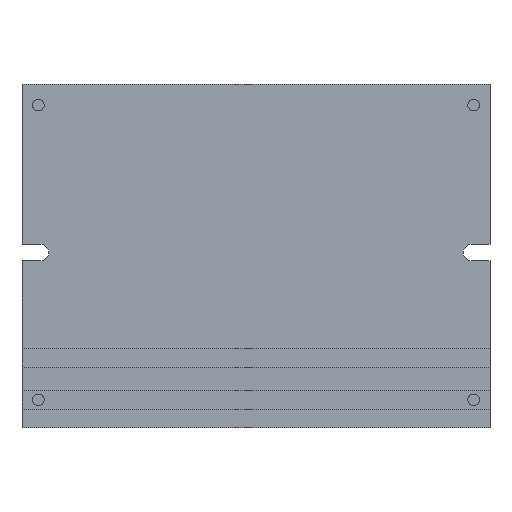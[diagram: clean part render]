
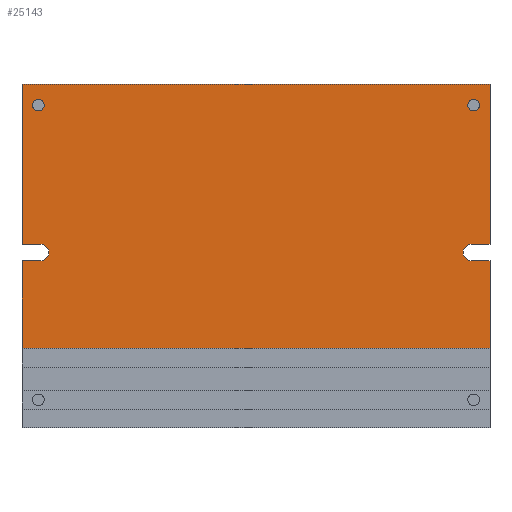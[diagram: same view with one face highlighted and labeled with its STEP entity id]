
A CAD part, front view. The second image highlights one B-rep face of the part: STEP entity #25143.
In plain terms, the highlighted planar face has unit normal (0, -1, 0).
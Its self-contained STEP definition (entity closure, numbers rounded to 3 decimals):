
#20 = ORIENTED_EDGE ( 'NONE', *, *, #6313, .T. ) ;
#113 = CARTESIAN_POINT ( 'NONE',  ( 50., 0., -17. ) ) ;
#625 = CARTESIAN_POINT ( 'NONE',  ( -50., 0., -17. ) ) ;
#988 = CIRCLE ( 'NONE', #11202, 1.25 ) ;
#1058 = EDGE_CURVE ( 'NONE', #17542, #24134, #6709, .T. ) ;
#1506 = EDGE_CURVE ( 'NONE', #13474, #17542, #23056, .T. ) ;
#1913 = CARTESIAN_POINT ( 'NONE',  ( 50., 0., -39.25 ) ) ;
#1966 = EDGE_CURVE ( 'NONE', #23691, #13474, #33916, .T. ) ;
#2396 = CARTESIAN_POINT ( 'NONE',  ( -46., 0., -37.5 ) ) ;
#2475 = ORIENTED_EDGE ( 'NONE', *, *, #37391, .T. ) ;
#2651 = ORIENTED_EDGE ( 'NONE', *, *, #33329, .T. ) ;
#2688 = VERTEX_POINT ( 'NONE', #36708 ) ;
#2946 = DIRECTION ( 'NONE',  ( -1., 0., 0. ) ) ;
#3272 = VECTOR ( 'NONE', #33790, 1000. ) ;
#3478 = VERTEX_POINT ( 'NONE', #21439 ) ;
#3665 = EDGE_CURVE ( 'NONE', #19752, #33095, #28564, .T. ) ;
#4010 = ORIENTED_EDGE ( 'NONE', *, *, #33170, .F. ) ;
#4163 = DIRECTION ( 'NONE',  ( 0., 0., -1. ) ) ;
#4278 = LINE ( 'NONE', #113, #19685 ) ;
#5313 = DIRECTION ( 'NONE',  ( 0., 0., 1. ) ) ;
#5749 = EDGE_CURVE ( 'NONE', #24048, #15819, #9074, .T. ) ;
#6313 = EDGE_CURVE ( 'NONE', #11904, #23691, #34809, .T. ) ;
#6709 = LINE ( 'NONE', #28142, #14375 ) ;
#6734 = VERTEX_POINT ( 'NONE', #37367 ) ;
#7167 = VECTOR ( 'NONE', #27182, 1000. ) ;
#7235 = AXIS2_PLACEMENT_3D ( 'NONE', #13713, #33973, #16642 ) ;
#7365 = EDGE_CURVE ( 'NONE', #24134, #11085, #20096, .T. ) ;
#7835 = CARTESIAN_POINT ( 'NONE',  ( -46., 0., -35.75 ) ) ;
#9074 = CIRCLE ( 'NONE', #12540, 1.25 ) ;
#9455 = CARTESIAN_POINT ( 'NONE',  ( 50., 0., -73.5 ) ) ;
#9632 = VECTOR ( 'NONE', #20652, 1000. ) ;
#10276 = EDGE_CURVE ( 'NONE', #19752, #32435, #25444, .T. ) ;
#10365 = DIRECTION ( 'NONE',  ( 0., 1., 0. ) ) ;
#10871 = FACE_OUTER_BOUND ( 'NONE', #11780, .T. ) ;
#10947 = CARTESIAN_POINT ( 'NONE',  ( 50., 0., -17. ) ) ;
#11008 = CARTESIAN_POINT ( 'NONE',  ( 46.5, 0., -69. ) ) ;
#11085 = VERTEX_POINT ( 'NONE', #26541 ) ;
#11202 = AXIS2_PLACEMENT_3D ( 'NONE', #28996, #11661, #31871 ) ;
#11359 = DIRECTION ( 'NONE',  ( 1., 0., 0. ) ) ;
#11661 = DIRECTION ( 'NONE',  ( 0., 1., 0. ) ) ;
#11780 = EDGE_LOOP ( 'NONE', ( #2475, #22303, #13648, #14299, #20, #29548, #24611, #15769, #30627, #4010, #16024, #31190 ) ) ;
#11904 = VERTEX_POINT ( 'NONE', #625 ) ;
#12398 = VECTOR ( 'NONE', #32895, 1000. ) ;
#12540 = AXIS2_PLACEMENT_3D ( 'NONE', #11008, #31228, #13867 ) ;
#12925 = CARTESIAN_POINT ( 'NONE',  ( -50., 0., -17. ) ) ;
#13448 = AXIS2_PLACEMENT_3D ( 'NONE', #31488, #14148, #34405 ) ;
#13457 = EDGE_LOOP ( 'NONE', ( #22156, #17883 ) ) ;
#13474 = VERTEX_POINT ( 'NONE', #7835 ) ;
#13526 = VECTOR ( 'NONE', #4163, 1000. ) ;
#13569 = EDGE_CURVE ( 'NONE', #20854, #19273, #988, .T. ) ;
#13648 = ORIENTED_EDGE ( 'NONE', *, *, #13950, .F. ) ;
#13713 = CARTESIAN_POINT ( 'NONE',  ( -46.5, 0., -69. ) ) ;
#13829 = DIRECTION ( 'NONE',  ( 0., 1., 0. ) ) ;
#13867 = DIRECTION ( 'NONE',  ( 0., 0., 1. ) ) ;
#13950 = EDGE_CURVE ( 'NONE', #2688, #3478, #18254, .T. ) ;
#14148 = DIRECTION ( 'NONE',  ( 0., 1., 0. ) ) ;
#14164 = AXIS2_PLACEMENT_3D ( 'NONE', #27696, #10365, #30569 ) ;
#14299 = ORIENTED_EDGE ( 'NONE', *, *, #27285, .T. ) ;
#14375 = VECTOR ( 'NONE', #31150, 1000. ) ;
#14662 = AXIS2_PLACEMENT_3D ( 'NONE', #31196, #13829, #34097 ) ;
#14845 = LINE ( 'NONE', #21465, #7167 ) ;
#15769 = ORIENTED_EDGE ( 'NONE', *, *, #1058, .T. ) ;
#15819 = VERTEX_POINT ( 'NONE', #34488 ) ;
#16024 = ORIENTED_EDGE ( 'NONE', *, *, #3665, .F. ) ;
#16642 = DIRECTION ( 'NONE',  ( 0., 0., 1. ) ) ;
#17043 = CIRCLE ( 'NONE', #13448, 1.75 ) ;
#17542 = VERTEX_POINT ( 'NONE', #23542 ) ;
#17883 = ORIENTED_EDGE ( 'NONE', *, *, #19376, .T. ) ;
#18254 = LINE ( 'NONE', #23556, #9632 ) ;
#18282 = DIRECTION ( 'NONE',  ( 1., 0., 0. ) ) ;
#18562 = FACE_BOUND ( 'NONE', #26707, .T. ) ;
#18698 = CARTESIAN_POINT ( 'NONE',  ( -46.5, 0., -67.75 ) ) ;
#19273 = VERTEX_POINT ( 'NONE', #18698 ) ;
#19376 = EDGE_CURVE ( 'NONE', #15819, #24048, #22151, .T. ) ;
#19616 = VECTOR ( 'NONE', #18282, 1000. ) ;
#19685 = VECTOR ( 'NONE', #2946, 1000. ) ;
#19752 = VERTEX_POINT ( 'NONE', #1913 ) ;
#20096 = LINE ( 'NONE', #12925, #12398 ) ;
#20652 = DIRECTION ( 'NONE',  ( 0., 0., -1. ) ) ;
#20854 = VERTEX_POINT ( 'NONE', #28357 ) ;
#20883 = VECTOR ( 'NONE', #28285, 1000. ) ;
#21439 = CARTESIAN_POINT ( 'NONE',  ( 50., 0., -35.75 ) ) ;
#21465 = CARTESIAN_POINT ( 'NONE',  ( 50., 0., -73.5 ) ) ;
#21875 = PLANE ( 'NONE',  #14164 ) ;
#22151 = CIRCLE ( 'NONE', #14662, 1.25 ) ;
#22156 = ORIENTED_EDGE ( 'NONE', *, *, #5749, .T. ) ;
#22303 = ORIENTED_EDGE ( 'NONE', *, *, #24188, .T. ) ;
#22641 = DIRECTION ( 'NONE',  ( 0., 1., 0. ) ) ;
#23056 = CIRCLE ( 'NONE', #34400, 1.75 ) ;
#23166 = CARTESIAN_POINT ( 'NONE',  ( 46., 0., -39.25 ) ) ;
#23542 = CARTESIAN_POINT ( 'NONE',  ( -46., 0., -39.25 ) ) ;
#23556 = CARTESIAN_POINT ( 'NONE',  ( 50., 0., -17. ) ) ;
#23691 = VERTEX_POINT ( 'NONE', #29945 ) ;
#24048 = VERTEX_POINT ( 'NONE', #32186 ) ;
#24134 = VERTEX_POINT ( 'NONE', #32671 ) ;
#24188 = EDGE_CURVE ( 'NONE', #6734, #3478, #28219, .T. ) ;
#24382 = CARTESIAN_POINT ( 'NONE',  ( -50., 0., -17. ) ) ;
#24611 = ORIENTED_EDGE ( 'NONE', *, *, #1506, .T. ) ;
#25143 = ADVANCED_FACE ( 'NONE', ( #18562, #36643, #10871 ), #21875, .F. ) ;
#25444 = LINE ( 'NONE', #28271, #3272 ) ;
#26161 = CIRCLE ( 'NONE', #7235, 1.25 ) ;
#26541 = CARTESIAN_POINT ( 'NONE',  ( -50., 0., -73.5 ) ) ;
#26707 = EDGE_LOOP ( 'NONE', ( #2651, #30077 ) ) ;
#27182 = DIRECTION ( 'NONE',  ( -1., 0., 0. ) ) ;
#27285 = EDGE_CURVE ( 'NONE', #2688, #11904, #4278, .T. ) ;
#27696 = CARTESIAN_POINT ( 'NONE',  ( 50., 0., -17. ) ) ;
#28142 = CARTESIAN_POINT ( 'NONE',  ( -50., 0., -39.25 ) ) ;
#28219 = LINE ( 'NONE', #32551, #19616 ) ;
#28271 = CARTESIAN_POINT ( 'NONE',  ( 50., 0., -39.25 ) ) ;
#28285 = DIRECTION ( 'NONE',  ( 0., 0., -1. ) ) ;
#28357 = CARTESIAN_POINT ( 'NONE',  ( -46.5, 0., -70.25 ) ) ;
#28564 = LINE ( 'NONE', #10947, #20883 ) ;
#28796 = CARTESIAN_POINT ( 'NONE',  ( -50., 0., -35.75 ) ) ;
#28996 = CARTESIAN_POINT ( 'NONE',  ( -46.5, 0., -69. ) ) ;
#29548 = ORIENTED_EDGE ( 'NONE', *, *, #1966, .T. ) ;
#29945 = CARTESIAN_POINT ( 'NONE',  ( -50., 0., -35.75 ) ) ;
#30077 = ORIENTED_EDGE ( 'NONE', *, *, #13569, .T. ) ;
#30569 = DIRECTION ( 'NONE',  ( 0., 0., 1. ) ) ;
#30627 = ORIENTED_EDGE ( 'NONE', *, *, #7365, .T. ) ;
#31150 = DIRECTION ( 'NONE',  ( -1., 0., 0. ) ) ;
#31190 = ORIENTED_EDGE ( 'NONE', *, *, #10276, .T. ) ;
#31196 = CARTESIAN_POINT ( 'NONE',  ( 46.5, 0., -69. ) ) ;
#31228 = DIRECTION ( 'NONE',  ( 0., 1., 0. ) ) ;
#31488 = CARTESIAN_POINT ( 'NONE',  ( 46., 0., -37.5 ) ) ;
#31871 = DIRECTION ( 'NONE',  ( 0., 0., 1. ) ) ;
#32186 = CARTESIAN_POINT ( 'NONE',  ( 46.5, 0., -67.75 ) ) ;
#32435 = VERTEX_POINT ( 'NONE', #23166 ) ;
#32551 = CARTESIAN_POINT ( 'NONE',  ( 50., 0., -35.75 ) ) ;
#32671 = CARTESIAN_POINT ( 'NONE',  ( -50., 0., -39.25 ) ) ;
#32895 = DIRECTION ( 'NONE',  ( 0., 0., -1. ) ) ;
#32991 = VECTOR ( 'NONE', #11359, 1000. ) ;
#33095 = VERTEX_POINT ( 'NONE', #9455 ) ;
#33170 = EDGE_CURVE ( 'NONE', #33095, #11085, #14845, .T. ) ;
#33329 = EDGE_CURVE ( 'NONE', #19273, #20854, #26161, .T. ) ;
#33790 = DIRECTION ( 'NONE',  ( -1., 0., 0. ) ) ;
#33916 = LINE ( 'NONE', #28796, #32991 ) ;
#33973 = DIRECTION ( 'NONE',  ( 0., 1., 0. ) ) ;
#34097 = DIRECTION ( 'NONE',  ( 0., 0., 1. ) ) ;
#34400 = AXIS2_PLACEMENT_3D ( 'NONE', #2396, #22641, #5313 ) ;
#34405 = DIRECTION ( 'NONE',  ( 0., 0., -1. ) ) ;
#34488 = CARTESIAN_POINT ( 'NONE',  ( 46.5, 0., -70.25 ) ) ;
#34809 = LINE ( 'NONE', #24382, #13526 ) ;
#36643 = FACE_BOUND ( 'NONE', #13457, .T. ) ;
#36708 = CARTESIAN_POINT ( 'NONE',  ( 50., 0., -17. ) ) ;
#37367 = CARTESIAN_POINT ( 'NONE',  ( 46., 0., -35.75 ) ) ;
#37391 = EDGE_CURVE ( 'NONE', #32435, #6734, #17043, .T. ) ;
